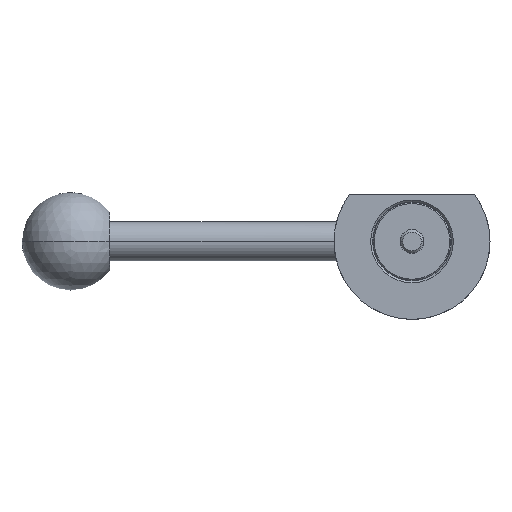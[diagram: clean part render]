
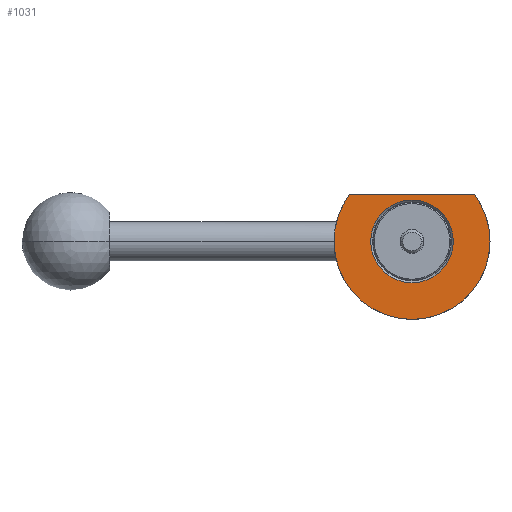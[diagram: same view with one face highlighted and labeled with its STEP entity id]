
A CAD part, front view. The second image highlights one B-rep face of the part: STEP entity #1031.
In plain terms, the highlighted planar face has unit normal (0, -1, 0).
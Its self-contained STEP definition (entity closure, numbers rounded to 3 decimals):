
#107 = CARTESIAN_POINT ( 'NONE',  ( 0., -10., 0. ) ) ;
#185 = AXIS2_PLACEMENT_3D ( 'NONE', #107, #2012, #2001 ) ;
#218 = AXIS2_PLACEMENT_3D ( 'NONE', #367, #1178, #1020 ) ;
#227 = CARTESIAN_POINT ( 'NONE',  ( -16.001, -10., 11.999 ) ) ;
#241 = EDGE_CURVE ( 'NONE', #2066, #961, #1153, .T. ) ;
#287 = CIRCLE ( 'NONE', #185, 20. ) ;
#296 = CARTESIAN_POINT ( 'NONE',  ( 16.001, -10., 11.999 ) ) ;
#309 = CIRCLE ( 'NONE', #1470, 10.6 ) ;
#315 = AXIS2_PLACEMENT_3D ( 'NONE', #1071, #1812, #1854 ) ;
#367 = CARTESIAN_POINT ( 'NONE',  ( 0., -10., 0. ) ) ;
#422 = VECTOR ( 'NONE', #1441, 1000. ) ;
#431 = EDGE_CURVE ( 'NONE', #1912, #1967, #287, .T. ) ;
#457 = CARTESIAN_POINT ( 'NONE',  ( -10.6, -10., 11.999 ) ) ;
#463 = CARTESIAN_POINT ( 'NONE',  ( 0., -10., 0. ) ) ;
#520 = CARTESIAN_POINT ( 'NONE',  ( 10.6, -10., 0. ) ) ;
#529 = DIRECTION ( 'NONE',  ( 1., 0., 0. ) ) ;
#530 = CARTESIAN_POINT ( 'NONE',  ( -20., -10., 0. ) ) ;
#608 = AXIS2_PLACEMENT_3D ( 'NONE', #1622, #1126, #1304 ) ;
#637 = DIRECTION ( 'NONE',  ( -1., 0., 0. ) ) ;
#665 = CARTESIAN_POINT ( 'NONE',  ( 20., -10., 0. ) ) ;
#718 = FACE_BOUND ( 'NONE', #824, .T. ) ;
#745 = AXIS2_PLACEMENT_3D ( 'NONE', #1064, #1829, #529 ) ;
#824 = EDGE_LOOP ( 'NONE', ( #1101, #1075 ) ) ;
#854 = CIRCLE ( 'NONE', #608, 20. ) ;
#861 = CIRCLE ( 'NONE', #315, 10.6 ) ;
#933 = VERTEX_POINT ( 'NONE', #1159 ) ;
#961 = VERTEX_POINT ( 'NONE', #227 ) ;
#1002 = ORIENTED_EDGE ( 'NONE', *, *, #1530, .F. ) ;
#1020 = DIRECTION ( 'NONE',  ( -1., 0., 0. ) ) ;
#1031 = ADVANCED_FACE ( 'NONE', ( #718, #1074 ), #1355, .T. ) ;
#1064 = CARTESIAN_POINT ( 'NONE',  ( -10.6, -10., 0. ) ) ;
#1071 = CARTESIAN_POINT ( 'NONE',  ( 0., -10., 0. ) ) ;
#1074 = FACE_OUTER_BOUND ( 'NONE', #1191, .T. ) ;
#1075 = ORIENTED_EDGE ( 'NONE', *, *, #1297, .T. ) ;
#1101 = ORIENTED_EDGE ( 'NONE', *, *, #1696, .T. ) ;
#1126 = DIRECTION ( 'NONE',  ( 0., 1., 0. ) ) ;
#1153 = LINE ( 'NONE', #457, #422 ) ;
#1159 = CARTESIAN_POINT ( 'NONE',  ( -10.6, -10., 0. ) ) ;
#1178 = DIRECTION ( 'NONE',  ( 0., 1., 0. ) ) ;
#1191 = EDGE_LOOP ( 'NONE', ( #1002, #1939, #2062, #1332 ) ) ;
#1297 = EDGE_CURVE ( 'NONE', #933, #1960, #861, .T. ) ;
#1304 = DIRECTION ( 'NONE',  ( -1., 0., 0. ) ) ;
#1332 = ORIENTED_EDGE ( 'NONE', *, *, #431, .F. ) ;
#1355 = PLANE ( 'NONE',  #745 ) ;
#1441 = DIRECTION ( 'NONE',  ( -1., 0., 0. ) ) ;
#1457 = EDGE_CURVE ( 'NONE', #1967, #961, #854, .T. ) ;
#1470 = AXIS2_PLACEMENT_3D ( 'NONE', #463, #1923, #637 ) ;
#1530 = EDGE_CURVE ( 'NONE', #2066, #1912, #1806, .T. ) ;
#1622 = CARTESIAN_POINT ( 'NONE',  ( 0., -10., 0. ) ) ;
#1696 = EDGE_CURVE ( 'NONE', #1960, #933, #309, .T. ) ;
#1806 = CIRCLE ( 'NONE', #218, 20. ) ;
#1812 = DIRECTION ( 'NONE',  ( 0., 1., 0. ) ) ;
#1829 = DIRECTION ( 'NONE',  ( 0., -1., 0. ) ) ;
#1854 = DIRECTION ( 'NONE',  ( -1., 0., 0. ) ) ;
#1912 = VERTEX_POINT ( 'NONE', #665 ) ;
#1923 = DIRECTION ( 'NONE',  ( 0., 1., 0. ) ) ;
#1939 = ORIENTED_EDGE ( 'NONE', *, *, #241, .T. ) ;
#1960 = VERTEX_POINT ( 'NONE', #520 ) ;
#1967 = VERTEX_POINT ( 'NONE', #530 ) ;
#2001 = DIRECTION ( 'NONE',  ( -1., 0., 0. ) ) ;
#2012 = DIRECTION ( 'NONE',  ( 0., 1., 0. ) ) ;
#2062 = ORIENTED_EDGE ( 'NONE', *, *, #1457, .F. ) ;
#2066 = VERTEX_POINT ( 'NONE', #296 ) ;
